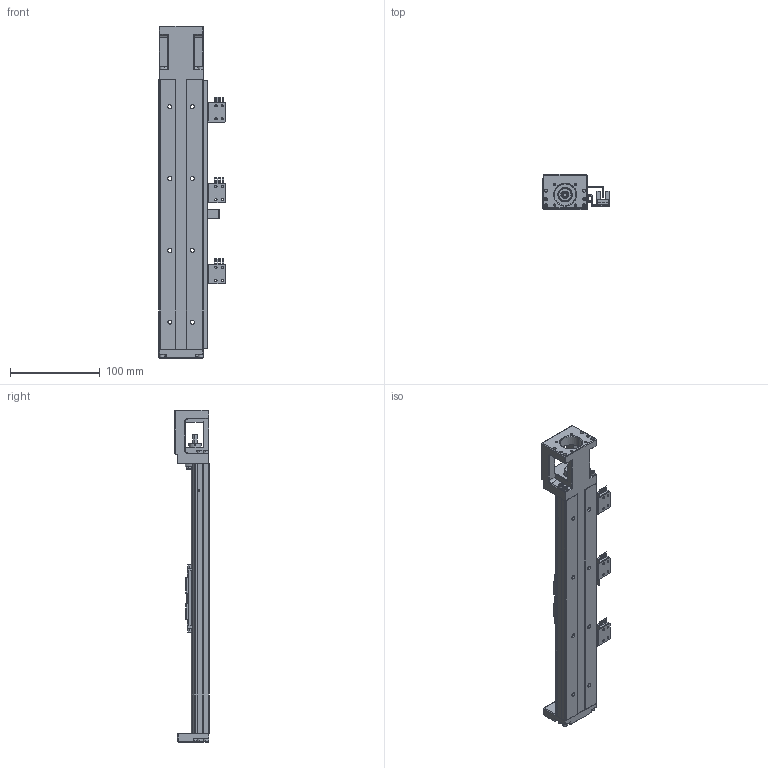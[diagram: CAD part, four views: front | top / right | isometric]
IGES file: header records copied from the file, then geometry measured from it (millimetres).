
Start section: SolidWorks IGES file using analytic representation for surfaces
Bounding box: 74.3 x 38.5 x 370 mm (x, y, z)
Surface area: 124281.3 mm2 (no closed solid volume)
Topology: 0 solids, 0 shells, 1309 faces, 14830 edges, 14720 vertices
Faces by surface type: bspline 779, revolution 530
